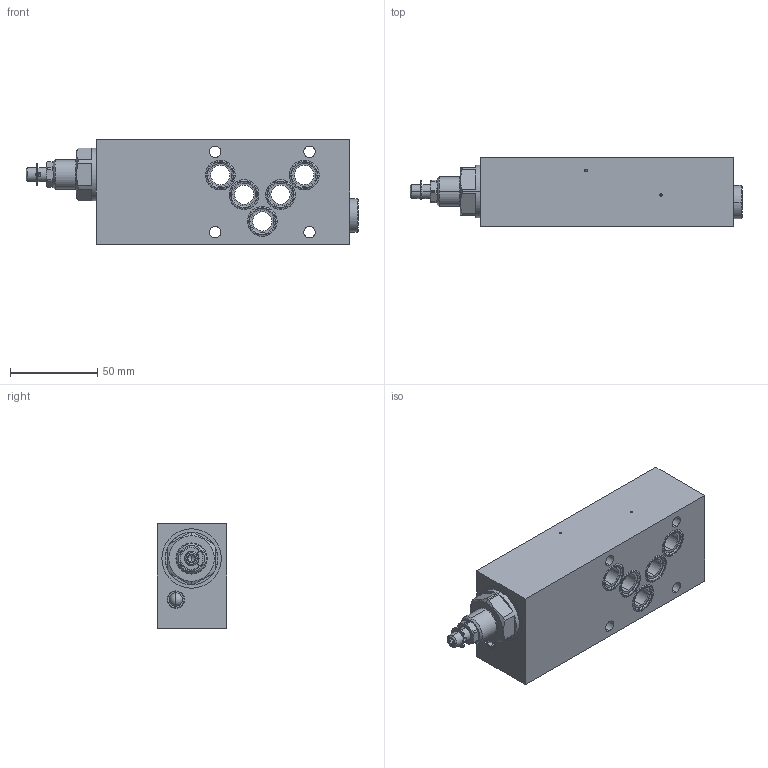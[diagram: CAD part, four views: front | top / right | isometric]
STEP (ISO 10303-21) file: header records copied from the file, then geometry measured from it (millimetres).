
FILE_DESCRIPTION (( 'STEP AP214' ), '1' );
FILE_NAME ('FVSSA10-P.STEP', '2017-03-23T07:10:08', ( '' ), ( '' ), 'SwSTEP 2.0', 'SolidWorks 2016', '' );
FILE_SCHEMA (( 'AUTOMOTIVE_DESIGN' ));
Length unit declared in the file: millimetre
Products named in the file (1): FVSSA10-P
Bounding box: 189.8 x 39.5 x 60 mm (x, y, z)
Volume: 329237.2 mm3; surface area: 51453.4 mm2
Topology: 11 solids, 15 shells, 356 faces, 849 edges, 523 vertices
Faces by surface type: cylinder 134, plane 87, cone 75, bspline 40, sphere 16, torus 4
Entity records: 14962 total; most frequent: CARTESIAN_POINT 2745, DIRECTION 1808, ORIENTED_EDGE 1646, EDGE_CURVE 823, AXIS2_PLACEMENT_3D 758, VERTEX_POINT 523, CIRCLE 441, EDGE_LOOP 410
